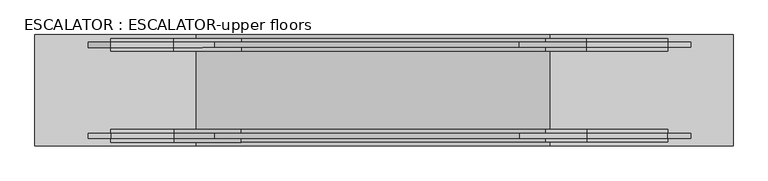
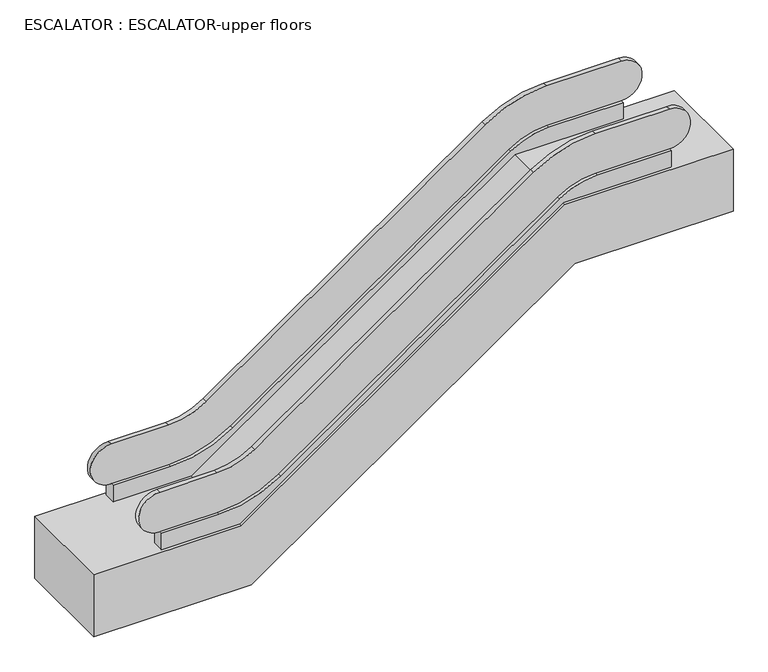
"""IFC4 building model written with IfcOpenShell, lengths in millimetres: proxy geometry, ESCALATOR : ESCALATOR-upper floors."""

import ifcopenshell
import ifcopenshell.guid

model = None  # the IFC model being written
_history = None  # IfcOwnerHistory: only IFC2X3 demands one
_inside = {}  # id of a spatial element -> (the spatial element, [elements in it])
_under = {}  # id of a project, library or spatial element -> (it, [spatial elements below it])
_declared = {}  # id of a project -> (the project, [libraries it declares])
_typed = {}  # id of a type object -> (the type object, [elements of that type])
_made_of = {}  # id of a material, layer set ... -> (it, [elements and type objects made of it])


def new_model(schema):
    """Start an empty IFC model of exactly this schema.

    Asked for "IFC4X3", IfcOpenShell would pick the latest addendum, in which some entities
    have other attributes; the version numbers below select the first issue.
    IFC2X3 requires an IfcOwnerHistory on every rooted entity: one is made here for all.
    """
    global model, _history
    if schema == "IFC4X3":
        model = ifcopenshell.file(schema_version=(4, 3, 0, 0))
    else:
        model = ifcopenshell.file(schema=schema)
    _inside.clear()
    _under.clear()
    _declared.clear()
    _typed.clear()
    _made_of.clear()
    _history = None
    if model.schema == "IFC2X3":
        org = make("IfcOrganization", Name="unknown")
        user = make(
            "IfcPersonAndOrganization",
            ThePerson=make("IfcPerson", FamilyName="unknown"),
            TheOrganization=org,
        )
        app = make(
            "IfcApplication",
            ApplicationDeveloper=org,
            Version="unknown",
            ApplicationFullName="unknown",
            ApplicationIdentifier="unknown",
        )
        _history = make(
            "IfcOwnerHistory",
            OwningUser=user,
            OwningApplication=app,
            ChangeAction="ADDED",
            CreationDate=0,
        )
    return model


def make(cls, **values):
    """One entity of the class cls with the attributes given. An attribute that is None is left unset."""
    return model.create_entity(
        cls, **{name: value for name, value in values.items() if value is not None}
    )


def rooted(cls, **values):
    """An entity with a GlobalId (a new one), such as an element, a storey or a relation."""
    return make(cls, GlobalId=ifcopenshell.guid.new(), OwnerHistory=_history, **values)


def si_unit(unit_type, name, prefix=None):
    """IfcSIUnit, for example si_unit("LENGTHUNIT", "METRE", prefix="MILLI")."""
    return make("IfcSIUnit", UnitType=unit_type, Prefix=prefix, Name=name)


def assignment(units):
    """IfcUnitAssignment: the units of a project."""
    return None if units is None else make("IfcUnitAssignment", Units=units)


def point(xyz):
    """IfcCartesianPoint."""
    return None if xyz is None else make("IfcCartesianPoint", Coordinates=xyz)


def direction(xyz):
    """IfcDirection."""
    return None if xyz is None else make("IfcDirection", DirectionRatios=xyz)


def frame(location, z_axis=None, x_axis=None):
    """IfcAxis2Placement3D, a coordinate frame: its origin and axes. An axis left out is left unset."""
    return make(
        "IfcAxis2Placement3D",
        Location=point(location),
        Axis=direction(z_axis),
        RefDirection=direction(x_axis),
    )


def frame_2d(location, x_axis=None):
    """IfcAxis2Placement2D, a coordinate frame in the plane: its origin and x axis."""
    return make(
        "IfcAxis2Placement2D", Location=point(location), RefDirection=direction(x_axis)
    )


def origin():
    """The frame at (0, 0, 0) with its axes left unset."""
    return frame((0.0, 0.0, 0.0))


def place(relative_to, where):
    """IfcLocalPlacement: puts the frame where relative to a parent placement (None: the world)."""
    return make(
        "IfcLocalPlacement", PlacementRelTo=relative_to, RelativePlacement=where
    )


def context(
    kind, dimensions, precision=None, world=None, true_north=None, identifier=None
):
    """IfcGeometricRepresentationContext, for example the 3D "Model" context."""
    return make(
        "IfcGeometricRepresentationContext",
        ContextIdentifier=identifier,
        ContextType=kind,
        CoordinateSpaceDimension=dimensions,
        Precision=precision,
        WorldCoordinateSystem=world,
        TrueNorth=true_north,
    )


def project(units=None, contexts=None):
    """IfcProject with its units and contexts."""
    return rooted(
        "IfcProject",
        Name="project",
        RepresentationContexts=contexts,
        UnitsInContext=assignment(units),
    )


def spatial(cls, under=None, at=None, **own):
    """A site, building, storey or space (cls), placed at a placement, below another one or the project."""
    s = rooted(cls, ObjectPlacement=at, **own)
    if under is not None:
        _under.setdefault(under.id(), (under, []))[1].append(s)
    return s


def polyline(points):
    """IfcPolyline through the points."""
    return make("IfcPolyline", Points=[point(p) for p in points])


def circle_curve(where, radius):
    """IfcCircle in the frame where."""
    return make("IfcCircle", Position=where, Radius=radius)


def trimmed(basis, trim1, trim2, sense, master):
    """IfcTrimmedCurve: the piece of a basis curve between two trims."""
    return make(
        "IfcTrimmedCurve",
        BasisCurve=basis,
        Trim1=trim1,
        Trim2=trim2,
        SenseAgreement=sense,
        MasterRepresentation=master,
    )


def segment(curve, same_sense, transition):
    """IfcCompositeCurveSegment."""
    return make(
        "IfcCompositeCurveSegment",
        Transition=transition,
        SameSense=same_sense,
        ParentCurve=curve,
    )


def composite_curve(segments, self_intersect=None):
    """IfcCompositeCurve: segments joined end to end."""
    return make("IfcCompositeCurve", Segments=segments, SelfIntersect=self_intersect)


def outline(outer, holes=None, kind="AREA"):
    """IfcArbitraryClosedProfileDef: a profile drawn as a closed curve; with holes, ...WithVoids."""
    if holes is None:
        return make("IfcArbitraryClosedProfileDef", ProfileType=kind, OuterCurve=outer)
    return make(
        "IfcArbitraryProfileDefWithVoids",
        ProfileType=kind,
        OuterCurve=outer,
        InnerCurves=holes,
    )


def extrude(swept, where, along, depth):
    """IfcExtrudedAreaSolid: the profile swept, set in the frame where, extruded along a direction by depth."""
    return make(
        "IfcExtrudedAreaSolid",
        SweptArea=swept,
        Position=where,
        ExtrudedDirection=direction(along),
        Depth=depth,
    )


def shape(context_of_items, identifier, shape_type, items):
    """IfcShapeRepresentation: the items that make up one representation, for example the "Body"."""
    return make(
        "IfcShapeRepresentation",
        ContextOfItems=context_of_items,
        RepresentationIdentifier=identifier,
        RepresentationType=shape_type,
        Items=items,
    )


def source(mapping_origin, context_of_items, identifier, shape_type, items):
    """IfcRepresentationMap: a shape defined once, which mapped items show again and again."""
    return make(
        "IfcRepresentationMap",
        MappingOrigin=mapping_origin,
        MappedRepresentation=shape(context_of_items, identifier, shape_type, items),
    )


def transform(
    local_origin,
    x_axis=None,
    y_axis=None,
    z_axis=None,
    scale=None,
    scale2=None,
    scale3=None,
    uniform=True,
):
    """IfcCartesianTransformationOperator3D, or its non-uniform kind. x_axis, y_axis, z_axis: its Axis1, 2, 3."""
    if uniform:
        return make(
            "IfcCartesianTransformationOperator3D",
            Axis1=direction(x_axis),
            Axis2=direction(y_axis),
            LocalOrigin=point(local_origin),
            Scale=scale,
            Axis3=direction(z_axis),
        )
    return make(
        "IfcCartesianTransformationOperator3DnonUniform",
        Axis1=direction(x_axis),
        Axis2=direction(y_axis),
        LocalOrigin=point(local_origin),
        Scale=scale,
        Axis3=direction(z_axis),
        Scale2=scale2,
        Scale3=scale3,
    )


def mapped(mapping_source, mapping_target):
    """IfcMappedItem: shows the shape of a source again, moved by a transform."""
    return make(
        "IfcMappedItem", MappingSource=mapping_source, MappingTarget=mapping_target
    )


def made_of(thing, what):
    """Note that an element or type object is made of a material, layer set ...; save() writes the relation."""
    if what is not None:
        _made_of.setdefault(what.id(), (what, []))[1].append(thing)
    return thing


def element(
    cls,
    number,
    at=None,
    inside=None,
    cuts=None,
    type_object=None,
    material=None,
    context=None,
    identifier="Body",
    shape_type=None,
    held_by="IfcProductDefinitionShape",
    body=None,
    shapes=None,
    **own,
):
    """One element of the class cls, such as IfcWall. Its Tag is "e" and its number.

    at: its placement. inside: the storey or other place that contains it. cuts: it is an
    opening in that element (IfcRelVoidsElement). A single representation is given by context,
    identifier, shape_type and body (its items); several are given by shapes. held_by: the class
    of the entity that holds the representations. save() writes the other relations.
    """
    e = rooted(cls, Tag="e%d" % number, ObjectPlacement=at, **own)
    if body is not None:
        shapes = [shape(context, identifier, shape_type, body)]
    if shapes is not None:
        e.Representation = make(held_by, Representations=shapes)
    if inside is not None:
        _inside.setdefault(inside.id(), (inside, []))[1].append(e)
    if cuts is not None:
        rooted(
            "IfcRelVoidsElement", RelatingBuildingElement=cuts, RelatedOpeningElement=e
        )
    if type_object is not None:
        _typed.setdefault(type_object.id(), (type_object, []))[1].append(e)
    return made_of(e, material)


def aggregate(whole, parts):
    """IfcRelAggregates: a whole, such as a stair, and the parts it consists of."""
    return rooted("IfcRelAggregates", RelatingObject=whole, RelatedObjects=parts)


def save(model, path):
    """Write the relations noted so far, then the file.

    IfcRelAggregates (storeys below a building ...), IfcRelContainedInSpatialStructure (elements
    in a storey), IfcRelDefinesByType, IfcRelAssociatesMaterial and IfcRelDeclares: one each for
    every whole, place, type object, material and project.
    """
    for whole, parts in _under.values():
        aggregate(whole, parts)
    for where, things in _inside.values():
        rooted(
            "IfcRelContainedInSpatialStructure",
            RelatedElements=things,
            RelatingStructure=where,
        )
    for kind, things in _typed.values():
        rooted("IfcRelDefinesByType", RelatedObjects=things, RelatingType=kind)
    for what, things in _made_of.values():
        rooted("IfcRelAssociatesMaterial", RelatedObjects=things, RelatingMaterial=what)
    for by, libraries in _declared.values():
        rooted("IfcRelDeclares", RelatingContext=by, RelatedDefinitions=libraries)
    model.write(path)


def escalator_escalator_upper_floors_265e6ffc(model_context):
    return source(origin(), model_context, "Body", "SweptSolid", [
        extrude(outline(composite_curve([segment(polyline([(4032.1241124, -4529.4294463), (1059.093828, -8774.9166924)]), True, "CONTINUOUS"), segment(trimmed(circle_curve(frame_2d((2400.0, -9713.9266167)), 1637.0), [point((1059.093828, -8774.9166924))], [point((763.0, -9713.9266167))], True, "CARTESIAN"), True, "CONTINUOUS"), segment(polyline([(763.0, -9713.9266167), (763.0, -10588.6153082), (500.0, -10588.6153082), (500.0, -9398.970123), (3950.0, -4472.370123), (3950.0, -2823.0153082), (4213.0, -2823.0153082), (4213.0, -3955.8131211)]), True, "CONTINUOUS"), segment(trimmed(circle_curve(frame_2d((3213.0, -3955.8131211)), 1000.0), [point((4213.0, -3955.8131211))], [point((4032.1241124, -4529.4294463))], False, "CARTESIAN"), True, "CONTINUOUS")], self_intersect=False)), frame((0.0, -725.0, 0.0), z_axis=(0.0, 1.0, 0.0), x_axis=(0.0, 0.0, 1.0)), (0.0, 0.0, 1.0), 175.0),
        extrude(outline(composite_curve([segment(polyline([(4850.0, -2823.0153082), (4850.0, -3955.8131211)]), True, "CONTINUOUS"), segment(trimmed(circle_curve(frame_2d((3213.0, -3955.8131211)), 1637.0), [point((4850.0, -3955.8131211))], [point((4553.906172, -4894.8230455))], False, "CARTESIAN"), True, "CONTINUOUS"), segment(polyline([(4553.906172, -4894.8230455), (1580.8758876, -9140.3102915)]), True, "CONTINUOUS"), segment(trimmed(circle_curve(frame_2d((2400.0, -9713.9266167)), 1000.0), [point((1580.8758876, -9140.3102915))], [point((1400.0, -9713.9266167))], True, "CARTESIAN"), True, "CONTINUOUS"), segment(polyline([(1400.0, -9713.9266167), (1400.0, -10588.6153082)]), True, "CONTINUOUS"), segment(trimmed(circle_curve(frame_2d((1081.5, -10588.6153082)), 318.5), [point((1400.0, -10588.6153082))], [point((763.0, -10588.6153082))], False, "CARTESIAN"), True, "CONTINUOUS"), segment(polyline([(763.0, -10588.6153082), (763.0, -9713.9266167)]), True, "CONTINUOUS"), segment(trimmed(circle_curve(frame_2d((2400.0, -9713.9266167)), 1637.0), [point((763.0, -9713.9266167))], [point((1059.093828, -8774.9166924))], False, "CARTESIAN"), True, "CONTINUOUS"), segment(polyline([(1059.093828, -8774.9166924), (4032.1241124, -4529.4294463)]), True, "CONTINUOUS"), segment(trimmed(circle_curve(frame_2d((3213.0, -3955.8131211)), 1000.0), [point((4032.1241124, -4529.4294463))], [point((4213.0, -3955.8131211))], True, "CARTESIAN"), True, "CONTINUOUS"), segment(polyline([(4213.0, -3955.8131211), (4213.0, -2823.0153082)]), True, "CONTINUOUS"), segment(trimmed(circle_curve(frame_2d((4531.5, -2823.0153082)), 318.5), [point((4213.0, -2823.0153082))], [point((4850.0, -2823.0153082))], False, "CARTESIAN"), True, "CONTINUOUS")], self_intersect=False)), frame((0.0, -675.0, 0.0), z_axis=(0.0, 1.0, 0.0), x_axis=(0.0, 0.0, 1.0)), (0.0, 0.0, 1.0), 75.0),
        extrude(outline(composite_curve([segment(polyline([(4850.0, -2823.0153082), (4850.0, -3955.8131211)]), True, "CONTINUOUS"), segment(trimmed(circle_curve(frame_2d((3213.0, -3955.8131211)), 1637.0), [point((4850.0, -3955.8131211))], [point((4553.906172, -4894.8230455))], False, "CARTESIAN"), True, "CONTINUOUS"), segment(polyline([(4553.906172, -4894.8230455), (1580.8758876, -9140.3102915)]), True, "CONTINUOUS"), segment(trimmed(circle_curve(frame_2d((2400.0, -9713.9266167)), 1000.0), [point((1580.8758876, -9140.3102915))], [point((1400.0, -9713.9266167))], True, "CARTESIAN"), True, "CONTINUOUS"), segment(polyline([(1400.0, -9713.9266167), (1400.0, -10588.6153082)]), True, "CONTINUOUS"), segment(trimmed(circle_curve(frame_2d((1081.5, -10588.6153082)), 318.5), [point((1400.0, -10588.6153082))], [point((763.0, -10588.6153082))], False, "CARTESIAN"), True, "CONTINUOUS"), segment(polyline([(763.0, -10588.6153082), (763.0, -9713.9266167)]), True, "CONTINUOUS"), segment(trimmed(circle_curve(frame_2d((2400.0, -9713.9266167)), 1637.0), [point((763.0, -9713.9266167))], [point((1059.093828, -8774.9166924))], False, "CARTESIAN"), True, "CONTINUOUS"), segment(polyline([(1059.093828, -8774.9166924), (4032.1241124, -4529.4294463)]), True, "CONTINUOUS"), segment(trimmed(circle_curve(frame_2d((3213.0, -3955.8131211)), 1000.0), [point((4032.1241124, -4529.4294463))], [point((4213.0, -3955.8131211))], True, "CARTESIAN"), True, "CONTINUOUS"), segment(polyline([(4213.0, -3955.8131211), (4213.0, -2823.0153082)]), True, "CONTINUOUS"), segment(trimmed(circle_curve(frame_2d((4531.5, -2823.0153082)), 318.5), [point((4213.0, -2823.0153082))], [point((4850.0, -2823.0153082))], False, "CARTESIAN"), True, "CONTINUOUS")], self_intersect=False)), frame((0.0, 600.0, 0.0), z_axis=(0.0, 1.0, 0.0), x_axis=(0.0, 0.0, 1.0)), (0.0, 0.0, 1.0), 75.0),
        extrude(outline(composite_curve([segment(polyline([(4032.1241124, -4529.4294463), (1059.093828, -8774.9166924)]), True, "CONTINUOUS"), segment(trimmed(circle_curve(frame_2d((2400.0, -9713.9266167)), 1637.0), [point((1059.093828, -8774.9166924))], [point((763.0, -9713.9266167))], True, "CARTESIAN"), True, "CONTINUOUS"), segment(polyline([(763.0, -9713.9266167), (763.0, -10588.6153082), (500.0, -10588.6153082), (500.0, -9398.970123), (3950.0, -4472.370123), (3950.0, -2823.0153082), (4213.0, -2823.0153082), (4213.0, -3955.8131211)]), True, "CONTINUOUS"), segment(trimmed(circle_curve(frame_2d((3213.0, -3955.8131211)), 1000.0), [point((4213.0, -3955.8131211))], [point((4032.1241124, -4529.4294463))], False, "CARTESIAN"), True, "CONTINUOUS")], self_intersect=False)), frame((0.0, 550.0, 0.0), z_axis=(0.0, 1.0, 0.0), x_axis=(0.0, 0.0, 1.0)), (0.0, 0.0, 1.0), 175.0),
        extrude(outline(polyline([(3950.0, -1912.5153082), (3950.0, -4472.370123), (500.0, -9398.970123), (500.0, -11648.970123), (-500.0, -11648.970123), (-500.0, -9249.2604934), (2950.0, -4322.6604934), (2950.0, -1912.5153082), (3950.0, -1912.5153082)])), frame((0.0, -775.0, 0.0), z_axis=(0.0, 1.0, 0.0), x_axis=(0.0, 0.0, 1.0)), (0.0, 0.0, 1.0), 1550.0),
    ])


if __name__ == "__main__":
    model = new_model("IFC4")
    model_context = context("Model", 3, world=origin())
    ifc_project = project(units=[si_unit("LENGTHUNIT", "METRE", prefix="MILLI")], contexts=[model_context])
    site = spatial("IfcSite", under=ifc_project)
    building = spatial("IfcBuilding", under=site)
    placement = place(None, origin())
    escalator_escalator_upper_floors_shape = escalator_escalator_upper_floors_265e6ffc(model_context)
    element("IfcBuildingElementProxy", 1, Name="ESCALATOR : ESCALATOR-upper floors", ObjectType="ESCALATOR : ESCALATOR-upper floors", at=placement, inside=building, context=model_context, shape_type="MappedRepresentation", body=[
        mapped(escalator_escalator_upper_floors_shape, transform((0.0, 0.0, 0.0), x_axis=(1.0, 0.0, 0.0), y_axis=(0.0, 1.0, 0.0), z_axis=(0.0, 0.0, 1.0))),
    ])
    save(model, "model.ifc")
